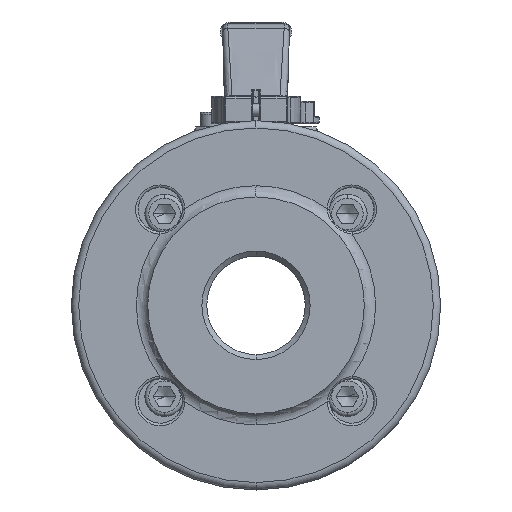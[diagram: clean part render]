
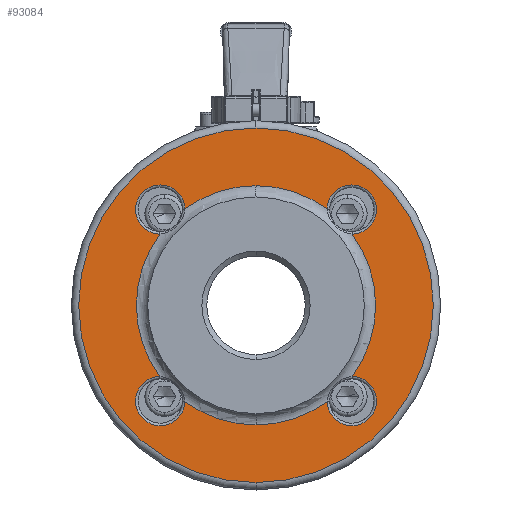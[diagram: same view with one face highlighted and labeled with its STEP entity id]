
A CAD part, left-side view. The second image highlights one B-rep face of the part: STEP entity #93084.
In plain terms, the highlighted planar face has unit normal (-1, 0, 0).
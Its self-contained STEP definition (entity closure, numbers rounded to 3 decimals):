
#25268=CARTESIAN_POINT('',(-47.,0.,0.));
#25269=DIRECTION('',(1.,0.,0.));
#25270=DIRECTION('',(0.,0.,1.));
#25271=AXIS2_PLACEMENT_3D('',#25268,#25269,#25270);
#25283=CARTESIAN_POINT('',(-47.,0.,0.));
#25284=DIRECTION('',(1.,0.,0.));
#25285=DIRECTION('',(0.,0.,-1.));
#25286=AXIS2_PLACEMENT_3D('',#25283,#25284,#25285);
#25301=CARTESIAN_POINT('',(-47.,0.,0.));
#25302=DIRECTION('',(1.,0.,0.));
#25303=DIRECTION('',(0.,0.804,-0.595));
#25304=AXIS2_PLACEMENT_3D('',#25301,#25302,#25303);
#25306=CARTESIAN_POINT('',(-47.,0.,0.));
#25307=DIRECTION('',(1.,0.,0.));
#25308=DIRECTION('',(0.,0.,-1.));
#25309=AXIS2_PLACEMENT_3D('',#25306,#25307,#25308);
#25311=CARTESIAN_POINT('',(-47.,0.,0.));
#25312=DIRECTION('',(-1.,0.,0.));
#25313=DIRECTION('',(0.,0.,-1.));
#25314=AXIS2_PLACEMENT_3D('',#25311,#25312,#25313);
#25316=CARTESIAN_POINT('',(-47.,0.,0.));
#25317=DIRECTION('',(-1.,0.,0.));
#25318=DIRECTION('',(0.,-0.804,-0.595));
#25319=AXIS2_PLACEMENT_3D('',#25316,#25317,#25318);
#25321=CARTESIAN_POINT('',(-47.,0.,0.));
#25322=DIRECTION('',(-1.,0.,0.));
#25323=DIRECTION('',(0.,-0.595,0.804));
#25324=AXIS2_PLACEMENT_3D('',#25321,#25322,#25323);
#25326=CARTESIAN_POINT('',(-47.,0.,0.));
#25327=DIRECTION('',(1.,0.,0.));
#25328=DIRECTION('',(0.,0.595,0.804));
#25329=AXIS2_PLACEMENT_3D('',#25326,#25327,#25328);
#25331=CARTESIAN_POINT('',(-47.,38.891,38.891));
#25332=DIRECTION('',(1.,0.,0.));
#25333=DIRECTION('',(0.,0.017,-1.));
#25334=AXIS2_PLACEMENT_3D('',#25331,#25332,#25333);
#25351=CARTESIAN_POINT('',(-47.,28.892,
39.058));
#25405=CARTESIAN_POINT('',(-47.,-28.892,
39.058));
#25419=CARTESIAN_POINT('',(-47.,-38.891,38.891));
#25420=DIRECTION('',(1.,0.,0.));
#25421=DIRECTION('',(0.,1.,0.017));
#25422=AXIS2_PLACEMENT_3D('',#25419,#25420,#25421);
#25439=CARTESIAN_POINT('',(-47.,-39.058,
28.892));
#25601=CARTESIAN_POINT('',(-47.,-39.058,
-28.892));
#25664=CARTESIAN_POINT('',(-47.,-38.891,-38.891));
#25665=DIRECTION('',(1.,0.,0.));
#25666=DIRECTION('',(0.,-0.017,1.));
#25667=AXIS2_PLACEMENT_3D('',#25664,#25665,#25666);
#25673=CARTESIAN_POINT('',(-47.,-28.892,
-39.058));
#35432=CARTESIAN_POINT('',(-47.,28.892,
-39.058));
#35446=CARTESIAN_POINT('',(-47.,38.891,-38.891));
#35447=DIRECTION('',(1.,0.,0.));
#35448=DIRECTION('',(0.,-1.,-0.017));
#35449=AXIS2_PLACEMENT_3D('',#35446,#35447,#35448);
#35466=CARTESIAN_POINT('',(-47.,39.058,
-28.892));
#35628=CARTESIAN_POINT('',(-47.,39.058,
28.892));
#42916=CARTESIAN_POINT('',(-47.,0.,-72.));
#42917=CARTESIAN_POINT('',(-47.,0.,72.));
#42918=VERTEX_POINT('',#42916);
#42919=VERTEX_POINT('',#42917);
#44500=VERTEX_POINT('',#25351);
#44503=VERTEX_POINT('',#35628);
#44517=VERTEX_POINT('',#25439);
#44520=VERTEX_POINT('',#25405);
#44530=VERTEX_POINT('',#25673);
#44534=VERTEX_POINT('',#25601);
#44550=VERTEX_POINT('',#35466);
#44553=VERTEX_POINT('',#35432);
#44563=CARTESIAN_POINT('',(-47.,0.,48.583));
#44564=VERTEX_POINT('',#44563);
#44565=CARTESIAN_POINT('',(-47.,0.,-48.583));
#44566=VERTEX_POINT('',#44565);
#93053=CARTESIAN_POINT('',(-47.,0.,0.));
#93054=DIRECTION('',(-1.,0.,0.));
#93055=DIRECTION('',(0.,0.,1.));
#93056=AXIS2_PLACEMENT_3D('',#93053,#93054,#93055);
#93057=PLANE('',#93056);
#93058=ORIENTED_EDGE('',*,*,#93035,.T.);
#93059=ORIENTED_EDGE('',*,*,#93020,.T.);
#93060=EDGE_LOOP('',(#93058,#93059));
#93061=FACE_OUTER_BOUND('',#93060,.F.);
#93063=ORIENTED_EDGE('',*,*,#93062,.F.);
#93065=ORIENTED_EDGE('',*,*,#93064,.F.);
#93067=ORIENTED_EDGE('',*,*,#93066,.F.);
#93069=ORIENTED_EDGE('',*,*,#93068,.F.);
#93071=ORIENTED_EDGE('',*,*,#93070,.T.);
#93073=ORIENTED_EDGE('',*,*,#93072,.F.);
#93075=ORIENTED_EDGE('',*,*,#93074,.T.);
#93077=ORIENTED_EDGE('',*,*,#93076,.F.);
#93079=ORIENTED_EDGE('',*,*,#93078,.T.);
#93081=ORIENTED_EDGE('',*,*,#93080,.F.);
#93082=EDGE_LOOP('',(#93063,#93065,#93067,#93069,#93071,#93073,#93075,#93077,
#93079,#93081));
#93083=FACE_BOUND('',#93082,.F.);
#93084=ADVANCED_FACE('',(#93061,#93083),#93057,.T.);
#25272=CIRCLE('',#25271,72.);
#25287=CIRCLE('',#25286,72.);
#25305=CIRCLE('',#25304,48.583);
#25310=CIRCLE('',#25309,48.583);
#25315=CIRCLE('',#25314,48.583);
#25320=CIRCLE('',#25319,48.583);
#25325=CIRCLE('',#25324,48.583);
#25330=CIRCLE('',#25329,48.583);
#25335=CIRCLE('',#25334,10.);
#25423=CIRCLE('',#25422,10.);
#25668=CIRCLE('',#25667,10.);
#35450=CIRCLE('',#35449,10.);
#93020=EDGE_CURVE('',#42919,#42918,#25272,.T.);
#93035=EDGE_CURVE('',#42918,#42919,#25287,.T.);
#93062=EDGE_CURVE('',#44503,#44500,#25335,.T.);
#93064=EDGE_CURVE('',#44550,#44503,#25305,.T.);
#93066=EDGE_CURVE('',#44553,#44550,#35450,.T.);
#93068=EDGE_CURVE('',#44566,#44553,#25310,.T.);
#93070=EDGE_CURVE('',#44566,#44530,#25315,.T.);
#93072=EDGE_CURVE('',#44534,#44530,#25668,.T.);
#93074=EDGE_CURVE('',#44534,#44517,#25320,.T.);
#93076=EDGE_CURVE('',#44520,#44517,#25423,.T.);
#93078=EDGE_CURVE('',#44520,#44564,#25325,.T.);
#93080=EDGE_CURVE('',#44500,#44564,#25330,.T.);
